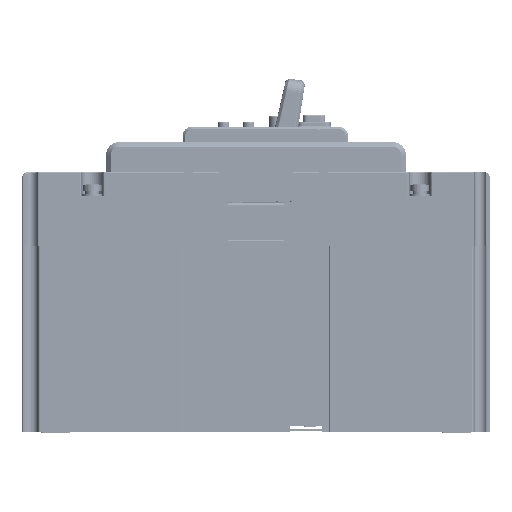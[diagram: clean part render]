
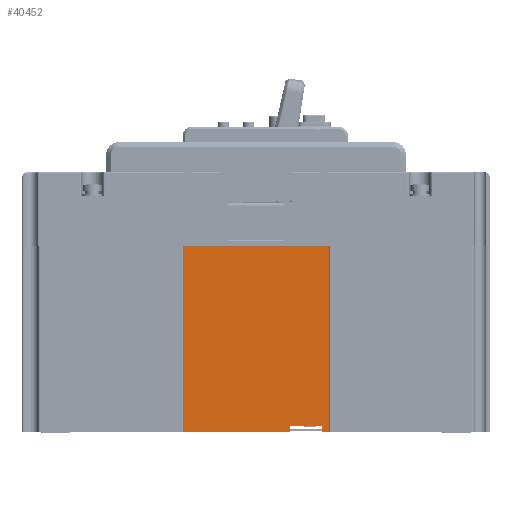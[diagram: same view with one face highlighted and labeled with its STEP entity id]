
A CAD part, left-side view. The second image highlights one B-rep face of the part: STEP entity #40452.
In plain terms, the highlighted planar face has unit normal (-1, 0, 0).
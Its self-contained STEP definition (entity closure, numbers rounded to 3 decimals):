
#4069=DIRECTION('',(0.,-1.,0.));
#4070=VECTOR('',#4069,34.5);
#4071=CARTESIAN_POINT('',(-45.5,23.5,-59.5));
#4072=LINE('',#4071,#4070);
#4351=DIRECTION('',(0.,1.,0.));
#4352=VECTOR('',#4351,10.);
#4353=CARTESIAN_POINT('',(-45.5,-21.,-57.5));
#4354=LINE('',#4353,#4352);
#4355=DIRECTION('',(0.,0.,-1.));
#4356=VECTOR('',#4355,2.);
#4357=CARTESIAN_POINT('',(-45.5,-11.,-57.5));
#4358=LINE('',#4357,#4356);
#4359=DIRECTION('',(0.,0.,1.));
#4360=VECTOR('',#4359,59.5);
#4361=CARTESIAN_POINT('',(-45.5,23.5,-59.5));
#4362=LINE('',#4361,#4360);
#4363=DIRECTION('',(0.,-1.,0.));
#4364=VECTOR('',#4363,47.);
#4365=CARTESIAN_POINT('',(-45.5,23.5,0.));
#4366=LINE('',#4365,#4364);
#4367=DIRECTION('',(0.,0.,1.));
#4368=VECTOR('',#4367,59.5);
#4369=CARTESIAN_POINT('',(-45.5,-23.5,-59.5));
#4370=LINE('',#4369,#4368);
#4570=DIRECTION('',(0.,-1.,0.));
#4571=VECTOR('',#4570,2.5);
#4572=CARTESIAN_POINT('',(-45.5,-21.,-59.5));
#4573=LINE('',#4572,#4571);
#20794=DIRECTION('',(0.,0.,-1.));
#20795=VECTOR('',#20794,2.);
#20796=CARTESIAN_POINT('',(-45.5,-21.,-57.5));
#20797=LINE('',#20796,#20795);
#25899=CARTESIAN_POINT('',(-45.5,-23.5,0.));
#25900=VERTEX_POINT('',#25899);
#25901=CARTESIAN_POINT('',(-45.5,23.5,0.));
#25902=VERTEX_POINT('',#25901);
#26645=CARTESIAN_POINT('',(-45.5,23.5,-59.5));
#26646=VERTEX_POINT('',#26645);
#26647=CARTESIAN_POINT('',(-45.5,-11.,-59.5));
#26648=VERTEX_POINT('',#26647);
#26919=CARTESIAN_POINT('',(-45.5,-21.,-59.5));
#26920=VERTEX_POINT('',#26919);
#26921=CARTESIAN_POINT('',(-45.5,-23.5,-59.5));
#26922=VERTEX_POINT('',#26921);
#27019=CARTESIAN_POINT('',(-45.5,-21.,-57.5));
#27020=CARTESIAN_POINT('',(-45.5,-11.,-57.5));
#27021=VERTEX_POINT('',#27019);
#27022=VERTEX_POINT('',#27020);
#40434=CARTESIAN_POINT('',(-45.5,-23.5,0.));
#40435=DIRECTION('',(1.,0.,0.));
#40436=DIRECTION('',(0.,1.,0.));
#40437=AXIS2_PLACEMENT_3D('',#40434,#40435,#40436);
#40438=PLANE('',#40437);
#40439=ORIENTED_EDGE('',*,*,#34117,.T.);
#40440=ORIENTED_EDGE('',*,*,#34142,.T.);
#40441=ORIENTED_EDGE('',*,*,#40253,.F.);
#40442=ORIENTED_EDGE('',*,*,#40428,.T.);
#40443=ORIENTED_EDGE('',*,*,#32456,.T.);
#40445=ORIENTED_EDGE('',*,*,#40444,.F.);
#40447=ORIENTED_EDGE('',*,*,#40446,.F.);
#40449=ORIENTED_EDGE('',*,*,#40448,.F.);
#40450=EDGE_LOOP('',(#40439,#40440,#40441,#40442,#40443,#40445,#40447,#40449));
#40451=FACE_OUTER_BOUND('',#40450,.F.);
#40452=ADVANCED_FACE('',(#40451),#40438,.F.);
#32456=EDGE_CURVE('',#25902,#25900,#4366,.T.);
#34117=EDGE_CURVE('',#27021,#27022,#4354,.T.);
#34142=EDGE_CURVE('',#27022,#26648,#4358,.T.);
#40253=EDGE_CURVE('',#26646,#26648,#4072,.T.);
#40428=EDGE_CURVE('',#26646,#25902,#4362,.T.);
#40444=EDGE_CURVE('',#26922,#25900,#4370,.T.);
#40446=EDGE_CURVE('',#26920,#26922,#4573,.T.);
#40448=EDGE_CURVE('',#27021,#26920,#20797,.T.);
